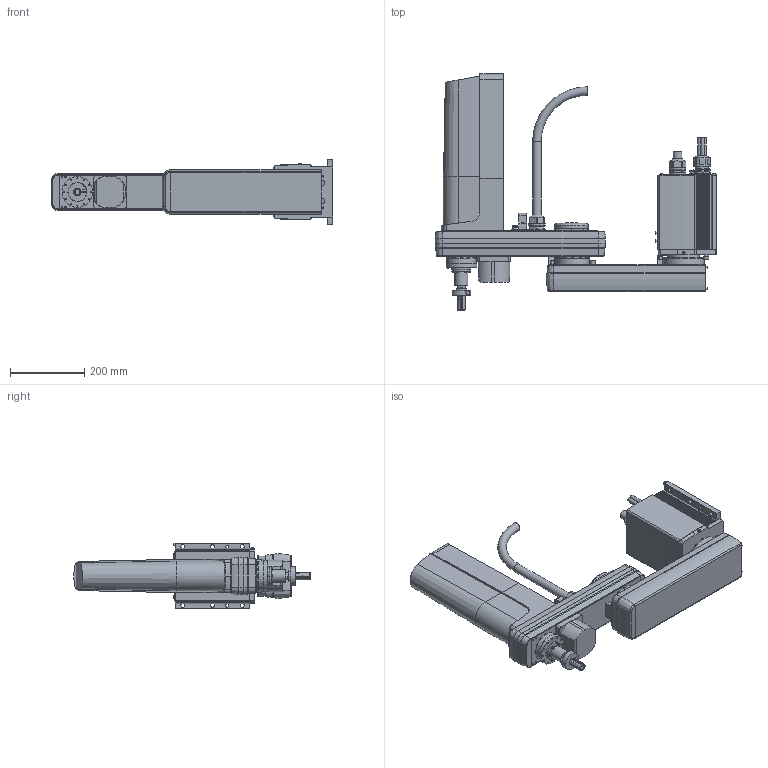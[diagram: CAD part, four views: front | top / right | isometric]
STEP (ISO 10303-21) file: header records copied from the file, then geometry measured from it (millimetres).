
FILE_DESCRIPTION( ( 'STEP AP214' ), '1' );
FILE_NAME( 'p:/temp/worker_93/2512_1440/app_42_02015071419115865537857192d056f_00_00_00_000/STEP/YK600XGS-300_2_14.stp', ' ', ( ' ' ), ( ' ' ), 'PSStep 15.0.47', 'PARTsolutions', ' ' );
FILE_SCHEMA( ( 'AUTOMOTIVE_DESIGN { 1 0 10303 214 1 1 1 1 }' ) );
Length unit declared in the file: millimetre
Products named in the file (5): YK600XGS-300; _YK600XGS-200-1; _YK600XGS-200-2; _YK600XGS-300-3; _YK600XGS-300-4
Assembly tree (4 placements, depth 2):
  YK600XGS-300
    _YK600XGS-200-1
    _YK600XGS-200-2
    _YK600XGS-300-3
    _YK600XGS-300-4
Bounding box: 760.5 x 637.5 x 178 mm (x, y, z)
Volume: 18308723 mm3; surface area: 950002.9 mm2
Topology: 4 solids, 4 shells, 1175 faces, 2809 edges, 1820 vertices
Faces by surface type: plane 690, cylinder 317, cone 137, torus 16, bspline 15
Full cylindrical faces by diameter (mm): 2.6 x2, 3 x12, 3.242 x4, 4 x1, 4.5 x2, 4.8 x2, 5.5 x30, 6 x6, 6.28 x1, 7 x25, 7.6 x4, 8 x3, 8.1 x4, 8.3 x4, 9.5 x4, 9.53 x4, 10 x6, 10.8 x2, 11 x7, 11.4 x6, 11.8 x2, 12.5 x4, 12.8 x4, 13 x5, 13.835 x1, 14 x1, 20 x2, 23 x2, 34 x1, 35 x3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
Entity records: 42948 total; most frequent: CARTESIAN_POINT 7058, DIRECTION 5547, ORIENTED_EDGE 5038, EDGE_CURVE 2519, AXIS2_PLACEMENT_3D 2072, VERTEX_POINT 1743, EDGE_LOOP 1609, LINE 1403
